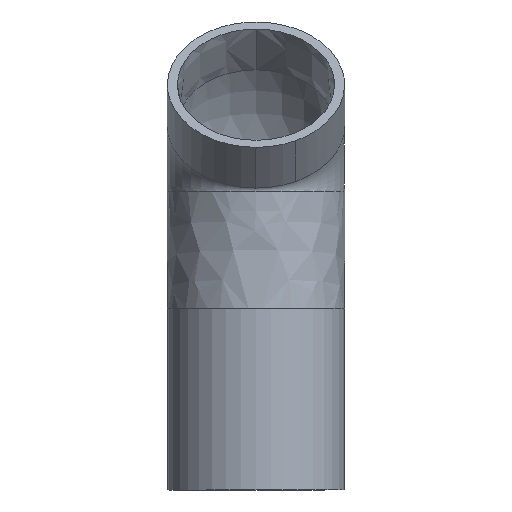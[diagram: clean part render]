
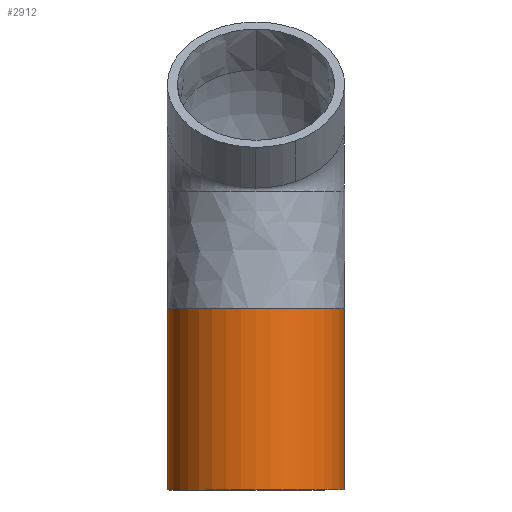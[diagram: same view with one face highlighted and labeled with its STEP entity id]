
A CAD part, front view. The second image highlights one B-rep face of the part: STEP entity #2912.
In plain terms, the highlighted cylindrical face has radius 55 mm (diameter 110 mm), a full revolution.
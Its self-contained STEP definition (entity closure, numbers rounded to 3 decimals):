
#78=CYLINDRICAL_SURFACE('',#3108,55.);
#90=FACE_BOUND('',#716,.T.);
#544=FACE_OUTER_BOUND('',#715,.T.);
#715=EDGE_LOOP('',(#2493));
#716=EDGE_LOOP('',(#2494));
#811=CIRCLE('',#2940,55.);
#904=CIRCLE('',#3106,55.);
#921=VERTEX_POINT('',#4234);
#1190=VERTEX_POINT('',#28760);
#1207=EDGE_CURVE('',#921,#921,#811,.T.);
#1625=EDGE_CURVE('',#1190,#1190,#904,.T.);
#2493=ORIENTED_EDGE('',*,*,#1207,.T.);
#2494=ORIENTED_EDGE('',*,*,#1625,.F.);
#2912=ADVANCED_FACE('',(#544,#90),#78,.T.);
#2940=AXIS2_PLACEMENT_3D('',#4235,#3130,#3131);
#3106=AXIS2_PLACEMENT_3D('',#28761,#3500,#3501);
#3108=AXIS2_PLACEMENT_3D('',#28764,#3504,#3505);
#3130=DIRECTION('center_axis',(0.,0.,-1.));
#3131=DIRECTION('ref_axis',(-1.,0.,0.));
#3500=DIRECTION('center_axis',(0.,0.,
-1.));
#3501=DIRECTION('ref_axis',(-1.,0.,0.));
#3504=DIRECTION('center_axis',(0.,0.,-1.));
#3505=DIRECTION('ref_axis',(-1.,0.,0.));
#4234=CARTESIAN_POINT('',(-55.,0.,113.));
#4235=CARTESIAN_POINT('Origin',(0.,0.,
113.));
#28760=CARTESIAN_POINT('',(-55.,0.,0.));
#28761=CARTESIAN_POINT('Origin',(0.,0.,
0.));
#28764=CARTESIAN_POINT('Origin',(0.,0.,
-1384.));
